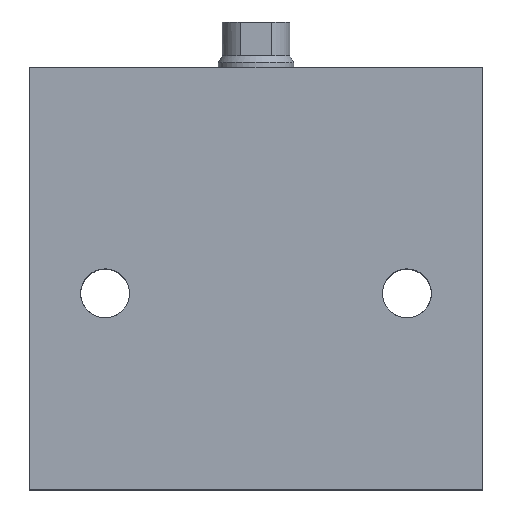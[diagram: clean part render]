
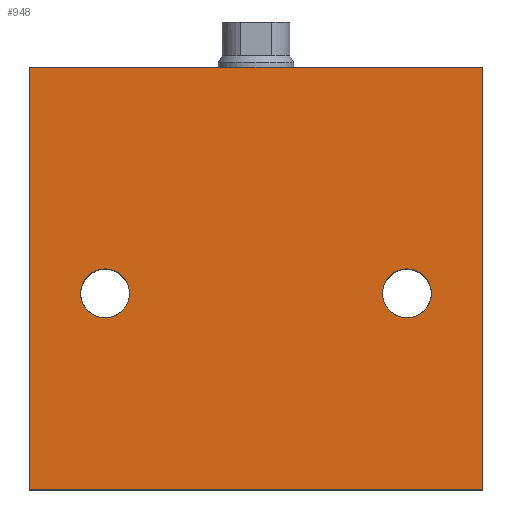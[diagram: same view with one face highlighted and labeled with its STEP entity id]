
A CAD part, top view. The second image highlights one B-rep face of the part: STEP entity #948.
In plain terms, the highlighted planar face has unit normal (0, 0, 1).
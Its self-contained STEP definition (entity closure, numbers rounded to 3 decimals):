
#59 = EDGE_CURVE ( 'NONE', #1164, #2454, #1847, .T. ) ;
#106 = CARTESIAN_POINT ( 'NONE',  ( -20., 26., 17.5 ) ) ;
#120 = DIRECTION ( 'NONE',  ( 1., 0., 0. ) ) ;
#161 = LINE ( 'NONE', #377, #915 ) ;
#169 = CARTESIAN_POINT ( 'NONE',  ( -16.75, 26., 17.5 ) ) ;
#189 = ORIENTED_EDGE ( 'NONE', *, *, #2788, .F. ) ;
#234 = DIRECTION ( 'NONE',  ( 0., -1., 0. ) ) ;
#247 = EDGE_CURVE ( 'NONE', #806, #2939, #1937, .T. ) ;
#368 = LINE ( 'NONE', #1981, #1887 ) ;
#369 = ORIENTED_EDGE ( 'NONE', *, *, #59, .F. ) ;
#377 = CARTESIAN_POINT ( 'NONE',  ( -30., 40., 17.5 ) ) ;
#386 = DIRECTION ( 'NONE',  ( 0., 0., 1. ) ) ;
#442 = CARTESIAN_POINT ( 'NONE',  ( -30., 56., 17.5 ) ) ;
#772 = ORIENTED_EDGE ( 'NONE', *, *, #247, .F. ) ;
#806 = VERTEX_POINT ( 'NONE', #1834 ) ;
#839 = EDGE_CURVE ( 'NONE', #1443, #3041, #3420, .T. ) ;
#882 = CARTESIAN_POINT ( 'NONE',  ( 20., 26., 17.5 ) ) ;
#886 = DIRECTION ( 'NONE',  ( 0., 0., 1. ) ) ;
#889 = DIRECTION ( 'NONE',  ( 1., 0., 0. ) ) ;
#915 = VECTOR ( 'NONE', #234, 1000. ) ;
#923 = VECTOR ( 'NONE', #2427, 1000. ) ;
#948 = ADVANCED_FACE ( 'NONE', ( #1682, #2330, #1594 ), #2191, .F. ) ;
#971 = AXIS2_PLACEMENT_3D ( 'NONE', #882, #886, #889 ) ;
#1120 = ORIENTED_EDGE ( 'NONE', *, *, #2418, .F. ) ;
#1164 = VERTEX_POINT ( 'NONE', #3036 ) ;
#1243 = AXIS2_PLACEMENT_3D ( 'NONE', #106, #386, #120 ) ;
#1337 = DIRECTION ( 'NONE',  ( 0., -1., 0. ) ) ;
#1443 = VERTEX_POINT ( 'NONE', #169 ) ;
#1528 = EDGE_CURVE ( 'NONE', #2724, #2746, #161, .T. ) ;
#1594 = FACE_OUTER_BOUND ( 'NONE', #2636, .T. ) ;
#1682 = FACE_BOUND ( 'NONE', #3354, .T. ) ;
#1707 = CIRCLE ( 'NONE', #1243, 3.25 ) ;
#1721 = CARTESIAN_POINT ( 'NONE',  ( 30., 0., 17.5 ) ) ;
#1763 = VECTOR ( 'NONE', #1337, 1000. ) ;
#1823 = ORIENTED_EDGE ( 'NONE', *, *, #3086, .T. ) ;
#1834 = CARTESIAN_POINT ( 'NONE',  ( 16.75, 26., 17.5 ) ) ;
#1842 = EDGE_LOOP ( 'NONE', ( #3462, #1120 ) ) ;
#1847 = LINE ( 'NONE', #2632, #1763 ) ;
#1887 = VECTOR ( 'NONE', #1941, 1000. ) ;
#1932 = CARTESIAN_POINT ( 'NONE',  ( -20., 26., 17.5 ) ) ;
#1933 = DIRECTION ( 'NONE',  ( 0., 0., 1. ) ) ;
#1937 = CIRCLE ( 'NONE', #971, 3.25 ) ;
#1938 = DIRECTION ( 'NONE',  ( 1., 0., 0. ) ) ;
#1941 = DIRECTION ( 'NONE',  ( 1., 0., 0. ) ) ;
#1981 = CARTESIAN_POINT ( 'NONE',  ( -30., 0., 17.5 ) ) ;
#2097 = ORIENTED_EDGE ( 'NONE', *, *, #3011, .F. ) ;
#2101 = CARTESIAN_POINT ( 'NONE',  ( -23.25, 26., 17.5 ) ) ;
#2191 = PLANE ( 'NONE',  #2603 ) ;
#2229 = CARTESIAN_POINT ( 'NONE',  ( -30., 40., 17.5 ) ) ;
#2232 = DIRECTION ( 'NONE',  ( 0., 0., -1. ) ) ;
#2242 = DIRECTION ( 'NONE',  ( -1., 0., 0. ) ) ;
#2323 = CARTESIAN_POINT ( 'NONE',  ( 23.25, 26., 17.5 ) ) ;
#2330 = FACE_BOUND ( 'NONE', #1842, .T. ) ;
#2418 = EDGE_CURVE ( 'NONE', #3041, #1443, #1707, .T. ) ;
#2427 = DIRECTION ( 'NONE',  ( 1., 0., 0. ) ) ;
#2454 = VERTEX_POINT ( 'NONE', #1721 ) ;
#2603 = AXIS2_PLACEMENT_3D ( 'NONE', #2229, #2232, #2242 ) ;
#2632 = CARTESIAN_POINT ( 'NONE',  ( 30., 40., 17.5 ) ) ;
#2636 = EDGE_LOOP ( 'NONE', ( #1823, #369, #2097, #3427 ) ) ;
#2675 = AXIS2_PLACEMENT_3D ( 'NONE', #1932, #1933, #1938 ) ;
#2686 = DIRECTION ( 'NONE',  ( 1., 0., 0. ) ) ;
#2691 = DIRECTION ( 'NONE',  ( 0., 0., 1. ) ) ;
#2695 = CARTESIAN_POINT ( 'NONE',  ( 20., 26., 17.5 ) ) ;
#2724 = VERTEX_POINT ( 'NONE', #2910 ) ;
#2746 = VERTEX_POINT ( 'NONE', #2879 ) ;
#2788 = EDGE_CURVE ( 'NONE', #2939, #806, #2942, .T. ) ;
#2879 = CARTESIAN_POINT ( 'NONE',  ( -30., 0., 17.5 ) ) ;
#2910 = CARTESIAN_POINT ( 'NONE',  ( -30., 56., 17.5 ) ) ;
#2939 = VERTEX_POINT ( 'NONE', #2323 ) ;
#2942 = CIRCLE ( 'NONE', #3425, 3.25 ) ;
#2982 = LINE ( 'NONE', #442, #923 ) ;
#3011 = EDGE_CURVE ( 'NONE', #2724, #1164, #2982, .T. ) ;
#3036 = CARTESIAN_POINT ( 'NONE',  ( 30., 56., 17.5 ) ) ;
#3041 = VERTEX_POINT ( 'NONE', #2101 ) ;
#3086 = EDGE_CURVE ( 'NONE', #2746, #2454, #368, .T. ) ;
#3354 = EDGE_LOOP ( 'NONE', ( #189, #772 ) ) ;
#3420 = CIRCLE ( 'NONE', #2675, 3.25 ) ;
#3425 = AXIS2_PLACEMENT_3D ( 'NONE', #2695, #2691, #2686 ) ;
#3427 = ORIENTED_EDGE ( 'NONE', *, *, #1528, .T. ) ;
#3462 = ORIENTED_EDGE ( 'NONE', *, *, #839, .F. ) ;
